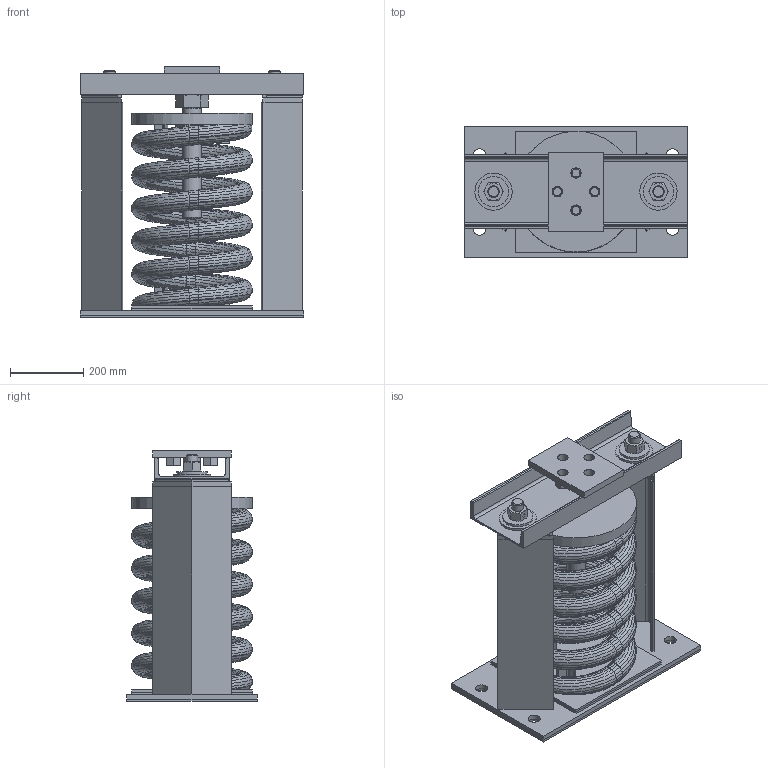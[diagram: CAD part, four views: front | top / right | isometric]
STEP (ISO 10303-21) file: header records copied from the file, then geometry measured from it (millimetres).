
FILE_DESCRIPTION(/* description */ (''),/* implementation_level */ '2;1');
FILE_NAME(/* name */ 'C:\001_Work\Designs\SLR-100 SERIES\SLR 100 SERIES (NON STOCK MOUNTS)\SLR 197-198\SLR-198.stp',/* time_stamp */ '2016-01-19T15:32:50-05:00',/* author */ ('rramoutar'),/* organization */ ('Mason Industries Inc.'),/* preprocessor_version */ 'ST-DEVELOPER v15.6',/* originating_system */ 'Autodesk Inventor 2015',/* authorisation */ '');
FILE_SCHEMA (('CONFIG_CONTROL_DESIGN'));
Products named in the file (1): SLR-198 PER A-29064-2
Bounding box: 609.6 x 355.6 x 685.8 mm (x, y, z)
Volume: 16030410.1 mm3; surface area: 4676602.4 mm2
Topology: 38 solids, 38 shells, 989 faces, 2117 edges, 1210 vertices
Faces by surface type: bspline 502, plane 282, cone 122, cylinder 80, torus 3
Full cylindrical faces by diameter (mm): 9.525 x2, 12.7 x1, 21.971 x4, 27.813 x2, 28.575 x4, 30.162 x2, 31.75 x2, 32.436 x2, 33.337 x10, 40.894 x1, 44.679 x1, 47.625 x2, 48.26 x1, 50.8 x3, 53.975 x1, 57.15 x4, 76.2 x1, 82.55 x2, 101.6 x2, 330.2 x1
Entity records: 47557 total; most frequent: CARTESIAN_POINT 29741, ORIENTED_EDGE 4034, DIRECTION 2076, EDGE_CURVE 2017, VERTEX_POINT 1181, EDGE_LOOP 1128, STYLED_ITEM 1027, B_SPLINE_CURVE_WITH_KNOTS 1012
